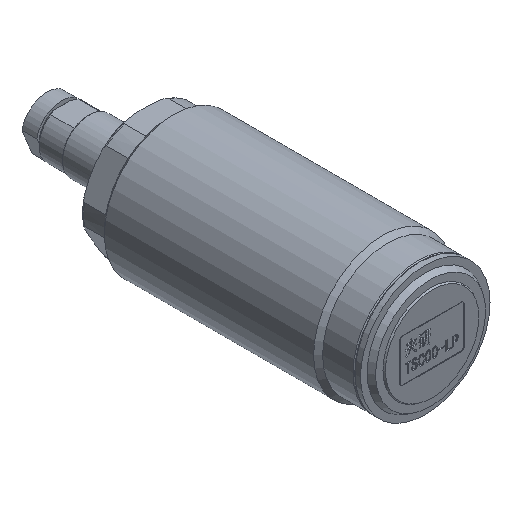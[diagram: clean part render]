
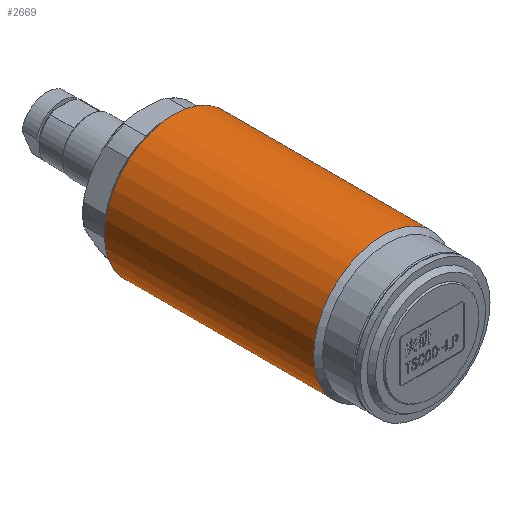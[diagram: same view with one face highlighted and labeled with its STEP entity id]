
A CAD part, isometric view. The second image highlights one B-rep face of the part: STEP entity #2669.
In plain terms, the highlighted cylindrical face has radius 13 mm (diameter 26 mm), a full revolution.
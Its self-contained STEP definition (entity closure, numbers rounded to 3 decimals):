
#2620=CYLINDRICAL_SURFACE('',#5539,13.);
#2669=ADVANCED_FACE('',(#2930,#2931),#2620,.T.);
#2930=FACE_BOUND('',#3047,.T.);
#2931=FACE_BOUND('',#3048,.T.);
#3047=EDGE_LOOP('',(#3397));
#3048=EDGE_LOOP('',(#3398));
#3397=ORIENTED_EDGE('',*,*,#4872,.F.);
#3398=ORIENTED_EDGE('',*,*,#4873,.T.);
#4468=VERTEX_POINT('',#6792);
#4469=VERTEX_POINT('',#6795);
#4872=EDGE_CURVE('',#4468,#4468,#5419,.T.);
#4873=EDGE_CURVE('',#4469,#4469,#5420,.T.);
#5419=CIRCLE('',#5536,13.);
#5420=CIRCLE('',#5538,13.);
#5536=AXIS2_PLACEMENT_3D('',#6791,#5895,#5896);
#5538=AXIS2_PLACEMENT_3D('',#6794,#5899,#5900);
#5539=AXIS2_PLACEMENT_3D('',#6796,#5901,#5902);
#5895=DIRECTION('',(0.,-1.,0.));
#5896=DIRECTION('',(0.,0.,-1.));
#5899=DIRECTION('',(0.,-1.,0.));
#5900=DIRECTION('',(0.,0.,-1.));
#5901=DIRECTION('',(0.,-1.,0.));
#5902=DIRECTION('',(0.,0.,-1.));
#6791=CARTESIAN_POINT('',(-19.36,9.25,0.));
#6792=CARTESIAN_POINT('',(-19.36,9.25,-13.));
#6794=CARTESIAN_POINT('',(-19.36,48.499,0.));
#6795=CARTESIAN_POINT('',(-19.36,48.499,-13.));
#6796=CARTESIAN_POINT('',(-19.36,-8.659,0.));
